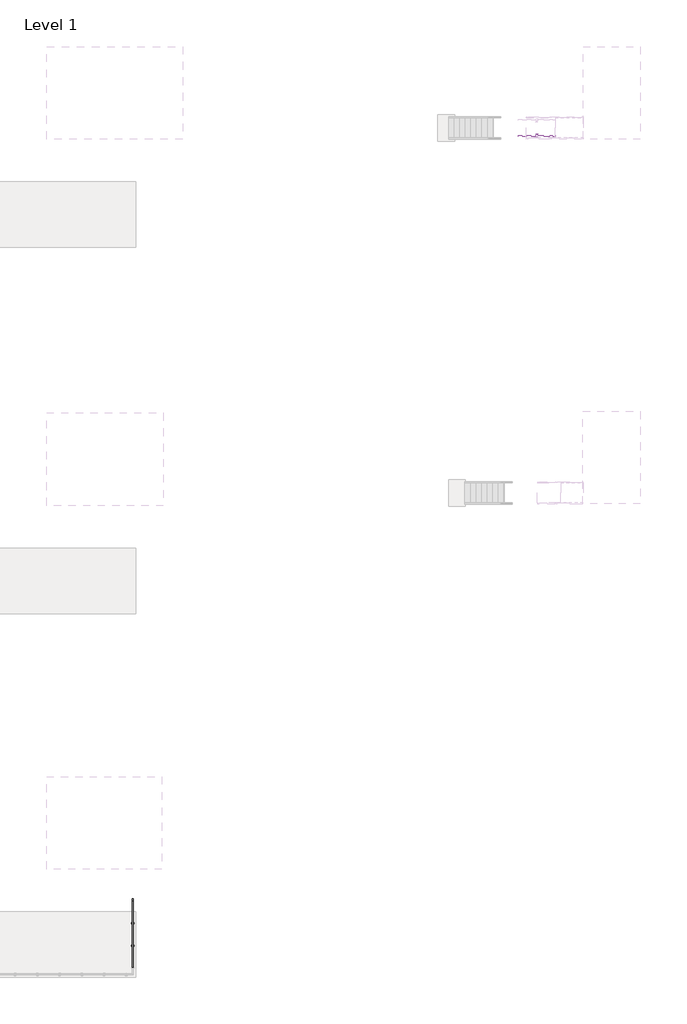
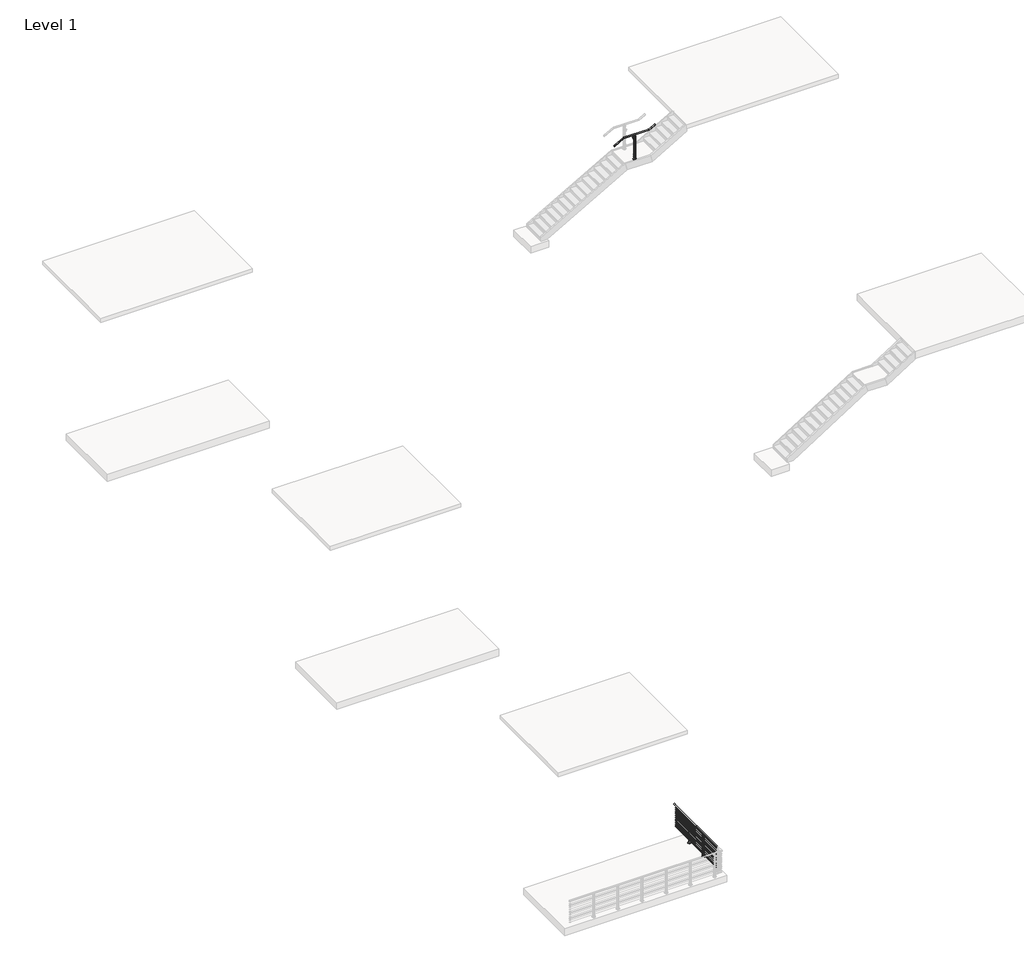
# One storey, part 22 of 36: 2 railings.
"""IFC4 building model written with IfcOpenShell, lengths in millimetres."""

from ifc_helpers import new_model, si_unit, point, frame, frame_2d, origin, origin_with_axes, place, context, project, spatial, polyline, circle_curve, ellipse_curve, trimmed, segment, composite_curve, outline, extrude, element, save
from ifc_brep_helpers import plane_surface, cylinder_surface, revolved_surface, advanced_brep

model = new_model("IFC4")

# Units and contexts
model_context = context("Model", 3, world=origin())
ifc_project = project(units=[si_unit("LENGTHUNIT", "METRE", prefix="MILLI")], contexts=[model_context])

# Site, building, storey
site = spatial("IfcSite", under=ifc_project)
building = spatial("IfcBuilding", under=site)
storey = spatial("IfcBuildingStorey", under=building, Name="Level 1", Elevation=0.0)

# Railings
placement = place(None, origin())
element("IfcRailing", 1, ObjectType="VIVA-BLADE-Cable-Core Mount-Straight", at=placement, inside=storey, context=model_context, shape_type="SolidModel", body=[
    advanced_brep(
    [(69909.4592968, -56752.6334719, 1054.1), (69858.6592968, -56752.6334719, 1054.1), (69909.4592968, -53704.6334719, 1054.1), (69858.6592968, -53704.6334719, 1054.1), (69909.4592968, -53603.0334719, 1054.1), (69858.6592968, -53603.0334719, 1054.1)],
    [
        (0, 1, circle_curve(frame((69884.0592968, -56752.6334719, 1054.1), z_axis=(0.0, -1.0, 0.0), x_axis=(-1.0, 0.0, 0.0)), 25.4)),
        (1, 0, circle_curve(frame((69884.0592968, -56752.6334719, 1054.1), z_axis=(0.0, -1.0, 0.0), x_axis=(-1.0, 0.0, 0.0)), 25.4)),
        (0, 2),
        (2, 3, circle_curve(frame((69884.0592968, -53704.6334719, 1054.1), z_axis=(0.0, -1.0, 0.0), x_axis=(-1.0, 0.0, 0.0)), 25.4)),
        (3, 1),
        (3, 2, circle_curve(frame((69884.0592968, -53704.6334719, 1054.1), z_axis=(0.0, -1.0, 0.0), x_axis=(-1.0, 0.0, 0.0)), 25.4)),
        (4, 5, circle_curve(frame((69884.0592968, -53603.0334719, 1054.1), z_axis=(0.0, 1.0, 0.0), x_axis=(-1.0, 0.0, 0.0)), 25.4)),
        (5, 4, circle_curve(frame((69884.0592968, -53603.0334719, 1054.1), z_axis=(0.0, 1.0, 0.0), x_axis=(-1.0, 0.0, 0.0)), 25.4)),
        (2, 4),
        (5, 3),
    ],
    [
        plane_surface(frame((69884.0592968, -56752.6334719, 1079.5), z_axis=(0.0, -1.0, 0.0), x_axis=(0.0, 0.0, 1.0))),
        cylinder_surface(frame((69884.0592968, -56752.6334719, 1054.1), z_axis=(0.0, -1.0, 0.0), x_axis=(-1.0, 0.0, 0.0)), 25.4),
        plane_surface(frame((69884.0592968, -53603.0334719, 1079.5), z_axis=(0.0, 1.0, 0.0), x_axis=(0.0, 0.0, 1.0))),
        cylinder_surface(frame((69884.0592968, -53704.6334719, 1054.1), z_axis=(0.0, -1.0, 0.0), x_axis=(-1.0, 0.0, 0.0)), 25.4),
    ],
    [
        (0, [[1, 2]]),
        (1, [[-1, 3, 4, 5]]),
        (1, [[-2, -5, 6, -3]]),
        (2, [[7, 8]]),
        (3, [[-4, 9, -8, 10]]),
        (3, [[-6, -10, -7, -9]]),
    ],
),
    extrude(outline(composite_curve([segment(trimmed(circle_curve(frame_2d((937.4124, 69884.0592968)), 2.3876), [point((937.4124, 69881.6716968))], [point((937.4124, 69886.4468968))], False, "CARTESIAN"), True, "CONTINUOUS"), segment(trimmed(circle_curve(frame_2d((937.4124, 69884.0592968)), 2.3876), [point((937.4124, 69886.4468968))], [point((937.4124, 69881.6716968))], False, "CARTESIAN"), True, "CONTINUOUS")], self_intersect=False)), frame((0.0, -56752.6334719, 0.0), z_axis=(0.0, 1.0, 0.0), x_axis=(0.0, 0.0, 1.0)), (0.0, 0.0, 1.0), 3048.0),
    extrude(outline(composite_curve([segment(trimmed(circle_curve(frame_2d((854.8624, 69884.0592968)), 2.3876), [point((854.8624, 69881.6716968))], [point((854.8624, 69886.4468968))], False, "CARTESIAN"), True, "CONTINUOUS"), segment(trimmed(circle_curve(frame_2d((854.8624, 69884.0592968)), 2.3876), [point((854.8624, 69886.4468968))], [point((854.8624, 69881.6716968))], False, "CARTESIAN"), True, "CONTINUOUS")], self_intersect=False)), frame((0.0, -56752.6334719, 0.0), z_axis=(0.0, 1.0, 0.0), x_axis=(0.0, 0.0, 1.0)), (0.0, 0.0, 1.0), 3048.0),
    extrude(outline(composite_curve([segment(trimmed(circle_curve(frame_2d((772.3124, 69884.0592968)), 2.3876), [point((772.3124, 69881.6716968))], [point((772.3124, 69886.4468968))], False, "CARTESIAN"), True, "CONTINUOUS"), segment(trimmed(circle_curve(frame_2d((772.3124, 69884.0592968)), 2.3876), [point((772.3124, 69886.4468968))], [point((772.3124, 69881.6716968))], False, "CARTESIAN"), True, "CONTINUOUS")], self_intersect=False)), frame((0.0, -56752.6334719, 0.0), z_axis=(0.0, 1.0, 0.0), x_axis=(0.0, 0.0, 1.0)), (0.0, 0.0, 1.0), 3048.0),
    extrude(outline(composite_curve([segment(trimmed(circle_curve(frame_2d((689.7624, 69884.0592968)), 2.3876), [point((689.7624, 69881.6716968))], [point((689.7624, 69886.4468968))], False, "CARTESIAN"), True, "CONTINUOUS"), segment(trimmed(circle_curve(frame_2d((689.7624, 69884.0592968)), 2.3876), [point((689.7624, 69886.4468968))], [point((689.7624, 69881.6716968))], False, "CARTESIAN"), True, "CONTINUOUS")], self_intersect=False)), frame((0.0, -56752.6334719, 0.0), z_axis=(0.0, 1.0, 0.0), x_axis=(0.0, 0.0, 1.0)), (0.0, 0.0, 1.0), 3048.0),
    extrude(outline(composite_curve([segment(trimmed(circle_curve(frame_2d((607.2124, 69884.0592968)), 2.3876), [point((607.2124, 69881.6716968))], [point((607.2124, 69886.4468968))], False, "CARTESIAN"), True, "CONTINUOUS"), segment(trimmed(circle_curve(frame_2d((607.2124, 69884.0592968)), 2.3876), [point((607.2124, 69886.4468968))], [point((607.2124, 69881.6716968))], False, "CARTESIAN"), True, "CONTINUOUS")], self_intersect=False)), frame((0.0, -56752.6334719, 0.0), z_axis=(0.0, 1.0, 0.0), x_axis=(0.0, 0.0, 1.0)), (0.0, 0.0, 1.0), 3048.0),
    extrude(outline(composite_curve([segment(trimmed(circle_curve(frame_2d((524.6624, 69884.0592968)), 2.3876), [point((524.6624, 69881.6716968))], [point((524.6624, 69886.4468968))], False, "CARTESIAN"), True, "CONTINUOUS"), segment(trimmed(circle_curve(frame_2d((524.6624, 69884.0592968)), 2.3876), [point((524.6624, 69886.4468968))], [point((524.6624, 69881.6716968))], False, "CARTESIAN"), True, "CONTINUOUS")], self_intersect=False)), frame((0.0, -56752.6334719, 0.0), z_axis=(0.0, 1.0, 0.0), x_axis=(0.0, 0.0, 1.0)), (0.0, 0.0, 1.0), 3048.0),
    extrude(outline(composite_curve([segment(trimmed(circle_curve(frame_2d((442.1124, 69884.0592968)), 2.3876), [point((442.1124, 69881.6716968))], [point((442.1124, 69886.4468968))], False, "CARTESIAN"), True, "CONTINUOUS"), segment(trimmed(circle_curve(frame_2d((442.1124, 69884.0592968)), 2.3876), [point((442.1124, 69886.4468968))], [point((442.1124, 69881.6716968))], False, "CARTESIAN"), True, "CONTINUOUS")], self_intersect=False)), frame((0.0, -56752.6334719, 0.0), z_axis=(0.0, 1.0, 0.0), x_axis=(0.0, 0.0, 1.0)), (0.0, 0.0, 1.0), 3048.0),
    extrude(outline(composite_curve([segment(trimmed(circle_curve(frame_2d((359.5624, 69884.0592968)), 2.3876), [point((359.5624, 69881.6716968))], [point((359.5624, 69886.4468968))], False, "CARTESIAN"), True, "CONTINUOUS"), segment(trimmed(circle_curve(frame_2d((359.5624, 69884.0592968)), 2.3876), [point((359.5624, 69886.4468968))], [point((359.5624, 69881.6716968))], False, "CARTESIAN"), True, "CONTINUOUS")], self_intersect=False)), frame((0.0, -56752.6334719, 0.0), z_axis=(0.0, 1.0, 0.0), x_axis=(0.0, 0.0, 1.0)), (0.0, 0.0, 1.0), 3048.0),
    extrude(outline(composite_curve([segment(trimmed(circle_curve(frame_2d((277.0124, 69884.0592968)), 2.3876), [point((277.0124, 69881.6716968))], [point((277.0124, 69886.4468968))], False, "CARTESIAN"), True, "CONTINUOUS"), segment(trimmed(circle_curve(frame_2d((277.0124, 69884.0592968)), 2.3876), [point((277.0124, 69886.4468968))], [point((277.0124, 69881.6716968))], False, "CARTESIAN"), True, "CONTINUOUS")], self_intersect=False)), frame((0.0, -56752.6334719, 0.0), z_axis=(0.0, 1.0, 0.0), x_axis=(0.0, 0.0, 1.0)), (0.0, 0.0, 1.0), 3048.0),
    extrude(outline(composite_curve([segment(trimmed(circle_curve(frame_2d((194.4624, 69884.0592968)), 2.3876), [point((194.4624, 69881.6716968))], [point((194.4624, 69886.4468968))], False, "CARTESIAN"), True, "CONTINUOUS"), segment(trimmed(circle_curve(frame_2d((194.4624, 69884.0592968)), 2.3876), [point((194.4624, 69886.4468968))], [point((194.4624, 69881.6716968))], False, "CARTESIAN"), True, "CONTINUOUS")], self_intersect=False)), frame((0.0, -56752.6334719, 0.0), z_axis=(0.0, 1.0, 0.0), x_axis=(0.0, 0.0, 1.0)), (0.0, 0.0, 1.0), 3048.0),
    extrude(outline(composite_curve([segment(trimmed(circle_curve(frame_2d((111.9124, 69884.0592968)), 2.3876), [point((111.9124, 69881.6716968))], [point((111.9124, 69886.4468968))], False, "CARTESIAN"), True, "CONTINUOUS"), segment(trimmed(circle_curve(frame_2d((111.9124, 69884.0592968)), 2.3876), [point((111.9124, 69886.4468968))], [point((111.9124, 69881.6716968))], False, "CARTESIAN"), True, "CONTINUOUS")], self_intersect=False)), frame((0.0, -56752.6334719, 0.0), z_axis=(0.0, 1.0, 0.0), x_axis=(0.0, 0.0, 1.0)), (0.0, 0.0, 1.0), 3048.0),
    extrude(outline(polyline([(69858.6595001, -54747.7083075), (69858.6595001, -54739.6834719), (69909.4618247, -54739.6834719), (69909.4618247, -54747.7083075), (69858.6595001, -54747.7083075)])), frame((0.0, 0.0, -146.05), z_axis=(0.0, 0.0, 1.0), x_axis=(1.0, 0.0, 0.0)), (0.0, 0.0, 1.0), 146.05),
    extrude(outline(polyline([(69858.6595001, -54701.5835099), (69858.6595001, -54693.5825099), (69909.4618247, -54693.5825099), (69909.4618247, -54701.5835099), (69858.6595001, -54701.5835099)])), frame((0.0, 0.0, -146.05), z_axis=(0.0, 0.0, 1.0), x_axis=(1.0, 0.0, 0.0)), (0.0, 0.0, 1.0), 146.05),
    extrude(outline(composite_curve([segment(trimmed(circle_curve(frame_2d((69884.0592968, -54720.6454087)), 63.4988059), [point((69947.5581027, -54720.6454087))], [point((69820.5604908, -54720.6454087))], False, "CARTESIAN"), True, "CONTINUOUS"), segment(trimmed(circle_curve(frame_2d((69884.0592968, -54720.6454087)), 63.4988059), [point((69820.5604908, -54720.6454087))], [point((69947.5581027, -54720.6454087))], False, "CARTESIAN"), True, "CONTINUOUS")], self_intersect=False)), origin_with_axes(), (0.0, 0.0, 1.0), 9.525),
    advanced_brep(
    [(69871.2991731, -54675.3960719, 1032.0967655), (69896.1712376, -54675.3960719, 1031.9535285), (69898.980168, -54675.3960719, 1027.1267745), (69867.4632757, -54675.3960719, 1027.707533), (69871.2991731, -54765.8708719, 1032.0967655), (69867.4632757, -54765.8708719, 1027.707533), (69899.0939614, -54765.8708719, 1027.1893964), (69896.2582098, -54765.8708719, 1032.0018447)],
    [
        (0, 1, circle_curve(frame((69883.862976, -54675.3960719, 1054.2115898), z_axis=(0.0, -1.0, 0.0), x_axis=(-1.0, 0.0, 0.0)), 25.4345159)),
        (1, 2, circle_curve(frame((69897.5028629, -54675.3960719, 1029.4993599), z_axis=(0.0, 1.0, 0.0), x_axis=(-1.0, 0.0, 0.0)), 2.7949225)),
        (2, 3, circle_curve(frame((69883.7295129, -54675.3960719, 1054.9742164), z_axis=(0.0, 1.0, 0.0), x_axis=(-1.0, 0.0, 0.0)), 31.75)),
        (3, 0, circle_curve(frame((69869.7516155, -54675.3960719, 1029.5784521), z_axis=(0.0, 1.0, 0.0), x_axis=(-1.0, 0.0, 0.0)), 2.9558141)),
        (4, 5, circle_curve(frame((69869.7516155, -54765.8708719, 1029.5784521), z_axis=(0.0, -1.0, 0.0), x_axis=(-1.0, 0.0, 0.0)), 2.9558141)),
        (5, 6, circle_curve(frame((69883.7295129, -54765.8708719, 1054.9742164), z_axis=(0.0, -1.0, 0.0), x_axis=(-1.0, 0.0, 0.0)), 31.75)),
        (6, 7, circle_curve(frame((69897.5028629, -54765.8708719, 1029.4993599), z_axis=(0.0, -1.0, 0.0), x_axis=(-1.0, 0.0, 0.0)), 2.7949225)),
        (7, 4, circle_curve(frame((69883.862976, -54765.8708719, 1054.2115898), z_axis=(0.0, 1.0, 0.0), x_axis=(-1.0, 0.0, 0.0)), 25.4345159)),
        (0, 4),
        (7, 1),
        (6, 2),
        (5, 3),
    ],
    [
        plane_surface(frame((69858.4284602, -54675.3960719, 1054.2115898), z_axis=(0.0, 1.0, 0.0), x_axis=(0.0, 0.0, -1.0))),
        plane_surface(frame((69858.4284602, -54765.8708719, 1054.2115898), z_axis=(0.0, -1.0, 0.0), x_axis=(0.0, 0.0, 1.0))),
        revolved_surface(polyline([(69858.42846010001, -54765.8708719, 1054.2115898), (69858.42846010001, -54675.3960719, 1054.2115898)]), (69883.862976, -54765.8708719, 1054.2115898), (0.0, -1.0, 0.0)),
        cylinder_surface(frame((69897.5028629, -54765.8708719, 1029.4993599), z_axis=(0.0, 1.0, 0.0), x_axis=(-1.0, 0.0, 0.0)), 2.7949225),
        cylinder_surface(frame((69883.7295129, -54765.8708719, 1054.9742164), z_axis=(0.0, 1.0, 0.0), x_axis=(-1.0, 0.0, 0.0)), 31.75),
        cylinder_surface(frame((69869.7516155, -54765.8708719, 1029.5784521), z_axis=(0.0, 1.0, 0.0), x_axis=(-1.0, 0.0, 0.0)), 2.9558141),
    ],
    [
        (0, [[1, 2, 3, 4]]),
        (1, [[5, 6, 7, 8]]),
        (2, [[-1, 9, -8, 10]]),
        (3, [[-2, -10, -7, 11]]),
        (4, [[-3, -11, -6, 12]]),
        (5, [[-4, -12, -5, -9]]),
    ],
),
    advanced_brep(
    [(69881.5192968, -54707.9334719, 1014.4125), (69881.5192968, -54733.3334719, 1014.4125), (69881.5192968, -54747.7013867, 1028.7804149), (69881.5192968, -54693.565557, 1028.7804149), (69886.5992968, -54707.9334719, 1014.4125), (69886.5992968, -54693.565557, 1028.7804149), (69886.5992968, -54747.7013867, 1028.7804149), (69886.5992968, -54733.3334719, 1014.4125)],
    [
        (0, 1),
        (1, 2, circle_curve(frame((69881.5192968, -54747.7013867, 1014.4125), z_axis=(1.0, 0.0, 0.0), x_axis=(0.0, -1.0, 0.0)), 14.3679149)),
        (2, 3),
        (3, 0, circle_curve(frame((69881.5192968, -54693.565557, 1014.4125), z_axis=(1.0, 0.0, 0.0), x_axis=(0.0, -1.0, 0.0)), 14.3679149)),
        (4, 5, circle_curve(frame((69886.5992968, -54693.565557, 1014.4125), z_axis=(-1.0, 0.0, 0.0), x_axis=(0.0, -1.0, 0.0)), 14.3679149)),
        (5, 6),
        (6, 7, circle_curve(frame((69886.5992968, -54747.7013867, 1014.4125), z_axis=(-1.0, 0.0, 0.0), x_axis=(0.0, -1.0, 0.0)), 14.3679149)),
        (7, 4),
        (0, 4),
        (7, 1),
        (6, 2),
        (5, 3),
    ],
    [
        plane_surface(frame((69881.5192968, -54733.3334719, 1014.4125), z_axis=(-1.0, 0.0, 0.0), x_axis=(0.0, -1.0, 0.0))),
        plane_surface(frame((69886.5992968, -54733.3334719, 1014.4125), z_axis=(1.0, 0.0, 0.0), x_axis=(0.0, 1.0, 0.0))),
        plane_surface(frame((69881.5192968, -54707.9334719, 1014.4125), z_axis=(0.0, 0.0, -1.0), x_axis=(1.0, 0.0, 0.0))),
        revolved_surface(polyline([(69886.5992968, -54762.0693016, 1014.4125), (69881.5192968, -54762.0693016, 1014.4125)]), (69886.5992968, -54747.7013867, 1014.4125), (1.0, 0.0, 0.0)),
        plane_surface(frame((69881.5192968, -54747.7013867, 1028.7804149), z_axis=(0.0, 0.0, 1.0), x_axis=(1.0, 0.0, 0.0))),
        revolved_surface(polyline([(69886.5992968, -54707.9334719, 1014.4125), (69881.5192968, -54707.9334719, 1014.4125)]), (69886.5992968, -54693.565557, 1014.4125), (1.0, 0.0, 0.0)),
    ],
    [
        (0, [[1, 2, 3, 4]]),
        (1, [[5, 6, 7, 8]]),
        (2, [[-1, 9, -8, 10]]),
        (3, [[-2, -10, -7, 11]]),
        (4, [[-3, -11, -6, 12]]),
        (5, [[-4, -12, -5, -9]]),
    ],
),
    extrude(outline(polyline([(69858.6595001, -54747.7083075), (69858.6595001, -54739.6834719), (69909.4618247, -54739.6834719), (69909.4618247, -54747.7083075), (69858.6595001, -54747.7083075)])), origin_with_axes(), (0.0, 0.0, 1.0), 996.95),
    extrude(outline(composite_curve([segment(trimmed(circle_curve(frame_2d((986.0416929, 69896.7617737)), 8.89), [point((986.0416929, 69905.6517737))], [point((986.0416929, 69887.8717737))], False, "CARTESIAN"), True, "CONTINUOUS"), segment(trimmed(circle_curve(frame_2d((986.0416929, 69896.7617737)), 8.89), [point((986.0416929, 69887.8717737))], [point((986.0416929, 69905.6517737))], False, "CARTESIAN"), True, "CONTINUOUS")], self_intersect=False)), frame((0.0, -54752.3834719, 0.0), z_axis=(0.0, 1.0, 0.0), x_axis=(0.0, 0.0, 1.0)), (0.0, 0.0, 1.0), 63.4880631),
    extrude(outline(composite_curve([segment(trimmed(circle_curve(frame_2d((986.0416929, 69871.3618757)), 8.89), [point((986.0416929, 69880.2518757))], [point((986.0416929, 69862.4718757))], False, "CARTESIAN"), True, "CONTINUOUS"), segment(trimmed(circle_curve(frame_2d((986.0416929, 69871.3618757)), 8.89), [point((986.0416929, 69862.4718757))], [point((986.0416929, 69880.2518757))], False, "CARTESIAN"), True, "CONTINUOUS")], self_intersect=False)), frame((0.0, -54752.3834719, 0.0), z_axis=(0.0, 1.0, 0.0), x_axis=(0.0, 0.0, 1.0)), (0.0, 0.0, 1.0), 63.4880631),
    extrude(outline(polyline([(-54739.6834719, 974.7123), (-54739.6834719, 1008.0625), (-54733.3334719, 1014.4125), (-54707.9334719, 1014.4125), (-54701.5834719, 1008.0625), (-54701.5834719, 974.7123), (-54739.6834719, 974.7123)])), frame((69858.6592968, 0.0, 0.0), z_axis=(1.0, 0.0, 0.0), x_axis=(0.0, 1.0, 0.0)), (0.0, 0.0, 1.0), 50.8025279),
    extrude(outline(polyline([(69858.6595001, -54701.5835099), (69858.6595001, -54693.5825099), (69909.4618247, -54693.5825099), (69909.4618247, -54701.5835099), (69858.6595001, -54701.5835099)])), origin_with_axes(), (0.0, 0.0, 1.0), 996.95),
    extrude(outline(polyline([(69858.6595001, -55763.7083075), (69858.6595001, -55755.6834719), (69909.4618247, -55755.6834719), (69909.4618247, -55763.7083075), (69858.6595001, -55763.7083075)])), frame((0.0, 0.0, -146.05), z_axis=(0.0, 0.0, 1.0), x_axis=(1.0, 0.0, 0.0)), (0.0, 0.0, 1.0), 146.05),
    extrude(outline(polyline([(69858.6595001, -55717.5835099), (69858.6595001, -55709.5825099), (69909.4618247, -55709.5825099), (69909.4618247, -55717.5835099), (69858.6595001, -55717.5835099)])), frame((0.0, 0.0, -146.05), z_axis=(0.0, 0.0, 1.0), x_axis=(1.0, 0.0, 0.0)), (0.0, 0.0, 1.0), 146.05),
    extrude(outline(composite_curve([segment(trimmed(circle_curve(frame_2d((69884.0592968, -55736.6454087)), 63.4988059), [point((69947.5581027, -55736.6454087))], [point((69820.5604908, -55736.6454087))], False, "CARTESIAN"), True, "CONTINUOUS"), segment(trimmed(circle_curve(frame_2d((69884.0592968, -55736.6454087)), 63.4988059), [point((69820.5604908, -55736.6454087))], [point((69947.5581027, -55736.6454087))], False, "CARTESIAN"), True, "CONTINUOUS")], self_intersect=False)), origin_with_axes(), (0.0, 0.0, 1.0), 9.525),
    advanced_brep(
    [(69871.2991731, -55691.3960719, 1032.0967655), (69896.1712376, -55691.3960719, 1031.9535285), (69898.980168, -55691.3960719, 1027.1267745), (69867.4632757, -55691.3960719, 1027.707533), (69871.2991731, -55781.8708719, 1032.0967655), (69867.4632757, -55781.8708719, 1027.707533), (69899.0939614, -55781.8708719, 1027.1893964), (69896.2582098, -55781.8708719, 1032.0018447)],
    [
        (0, 1, circle_curve(frame((69883.862976, -55691.3960719, 1054.2115898), z_axis=(0.0, -1.0, 0.0), x_axis=(-1.0, 0.0, 0.0)), 25.4345159)),
        (1, 2, circle_curve(frame((69897.5028629, -55691.3960719, 1029.4993599), z_axis=(0.0, 1.0, 0.0), x_axis=(-1.0, 0.0, 0.0)), 2.7949225)),
        (2, 3, circle_curve(frame((69883.7295129, -55691.3960719, 1054.9742164), z_axis=(0.0, 1.0, 0.0), x_axis=(-1.0, 0.0, 0.0)), 31.75)),
        (3, 0, circle_curve(frame((69869.7516155, -55691.3960719, 1029.5784521), z_axis=(0.0, 1.0, 0.0), x_axis=(-1.0, 0.0, 0.0)), 2.9558141)),
        (4, 5, circle_curve(frame((69869.7516155, -55781.8708719, 1029.5784521), z_axis=(0.0, -1.0, 0.0), x_axis=(-1.0, 0.0, 0.0)), 2.9558141)),
        (5, 6, circle_curve(frame((69883.7295129, -55781.8708719, 1054.9742164), z_axis=(0.0, -1.0, 0.0), x_axis=(-1.0, 0.0, 0.0)), 31.75)),
        (6, 7, circle_curve(frame((69897.5028629, -55781.8708719, 1029.4993599), z_axis=(0.0, -1.0, 0.0), x_axis=(-1.0, 0.0, 0.0)), 2.7949225)),
        (7, 4, circle_curve(frame((69883.862976, -55781.8708719, 1054.2115898), z_axis=(0.0, 1.0, 0.0), x_axis=(-1.0, 0.0, 0.0)), 25.4345159)),
        (0, 4),
        (7, 1),
        (6, 2),
        (5, 3),
    ],
    [
        plane_surface(frame((69858.4284602, -55691.3960719, 1054.2115898), z_axis=(0.0, 1.0, 0.0), x_axis=(0.0, 0.0, -1.0))),
        plane_surface(frame((69858.4284602, -55781.8708719, 1054.2115898), z_axis=(0.0, -1.0, 0.0), x_axis=(0.0, 0.0, 1.0))),
        revolved_surface(polyline([(69858.42846010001, -55781.8708719, 1054.2115898), (69858.42846010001, -55691.3960719, 1054.2115898)]), (69883.862976, -55781.8708719, 1054.2115898), (0.0, -1.0, 0.0)),
        cylinder_surface(frame((69897.5028629, -55781.8708719, 1029.4993599), z_axis=(0.0, 1.0, 0.0), x_axis=(-1.0, 0.0, 0.0)), 2.7949225),
        cylinder_surface(frame((69883.7295129, -55781.8708719, 1054.9742164), z_axis=(0.0, 1.0, 0.0), x_axis=(-1.0, 0.0, 0.0)), 31.75),
        cylinder_surface(frame((69869.7516155, -55781.8708719, 1029.5784521), z_axis=(0.0, 1.0, 0.0), x_axis=(-1.0, 0.0, 0.0)), 2.9558141),
    ],
    [
        (0, [[1, 2, 3, 4]]),
        (1, [[5, 6, 7, 8]]),
        (2, [[-1, 9, -8, 10]]),
        (3, [[-2, -10, -7, 11]]),
        (4, [[-3, -11, -6, 12]]),
        (5, [[-4, -12, -5, -9]]),
    ],
),
    advanced_brep(
    [(69881.5192968, -55723.9334719, 1014.4125), (69881.5192968, -55749.3334719, 1014.4125), (69881.5192968, -55763.7013867, 1028.7804149), (69881.5192968, -55709.565557, 1028.7804149), (69886.5992968, -55723.9334719, 1014.4125), (69886.5992968, -55709.565557, 1028.7804149), (69886.5992968, -55763.7013867, 1028.7804149), (69886.5992968, -55749.3334719, 1014.4125)],
    [
        (0, 1),
        (1, 2, circle_curve(frame((69881.5192968, -55763.7013867, 1014.4125), z_axis=(1.0, 0.0, 0.0), x_axis=(0.0, -1.0, 0.0)), 14.3679149)),
        (2, 3),
        (3, 0, circle_curve(frame((69881.5192968, -55709.565557, 1014.4125), z_axis=(1.0, 0.0, 0.0), x_axis=(0.0, -1.0, 0.0)), 14.3679149)),
        (4, 5, circle_curve(frame((69886.5992968, -55709.565557, 1014.4125), z_axis=(-1.0, 0.0, 0.0), x_axis=(0.0, -1.0, 0.0)), 14.3679149)),
        (5, 6),
        (6, 7, circle_curve(frame((69886.5992968, -55763.7013867, 1014.4125), z_axis=(-1.0, 0.0, 0.0), x_axis=(0.0, -1.0, 0.0)), 14.3679149)),
        (7, 4),
        (0, 4),
        (7, 1),
        (6, 2),
        (5, 3),
    ],
    [
        plane_surface(frame((69881.5192968, -55749.3334719, 1014.4125), z_axis=(-1.0, 0.0, 0.0), x_axis=(0.0, -1.0, 0.0))),
        plane_surface(frame((69886.5992968, -55749.3334719, 1014.4125), z_axis=(1.0, 0.0, 0.0), x_axis=(0.0, 1.0, 0.0))),
        plane_surface(frame((69881.5192968, -55723.9334719, 1014.4125), z_axis=(0.0, 0.0, -1.0), x_axis=(1.0, 0.0, 0.0))),
        revolved_surface(polyline([(69886.5992968, -55778.0693016, 1014.4125), (69881.5192968, -55778.0693016, 1014.4125)]), (69886.5992968, -55763.7013867, 1014.4125), (1.0, 0.0, 0.0)),
        plane_surface(frame((69881.5192968, -55763.7013867, 1028.7804149), z_axis=(0.0, 0.0, 1.0), x_axis=(1.0, 0.0, 0.0))),
        revolved_surface(polyline([(69886.5992968, -55723.9334719, 1014.4125), (69881.5192968, -55723.9334719, 1014.4125)]), (69886.5992968, -55709.565557, 1014.4125), (1.0, 0.0, 0.0)),
    ],
    [
        (0, [[1, 2, 3, 4]]),
        (1, [[5, 6, 7, 8]]),
        (2, [[-1, 9, -8, 10]]),
        (3, [[-2, -10, -7, 11]]),
        (4, [[-3, -11, -6, 12]]),
        (5, [[-4, -12, -5, -9]]),
    ],
),
    extrude(outline(polyline([(69858.6595001, -55763.7083075), (69858.6595001, -55755.6834719), (69909.4618247, -55755.6834719), (69909.4618247, -55763.7083075), (69858.6595001, -55763.7083075)])), origin_with_axes(), (0.0, 0.0, 1.0), 996.95),
    extrude(outline(composite_curve([segment(trimmed(circle_curve(frame_2d((986.0416929, 69896.7617737)), 8.89), [point((986.0416929, 69905.6517737))], [point((986.0416929, 69887.8717737))], False, "CARTESIAN"), True, "CONTINUOUS"), segment(trimmed(circle_curve(frame_2d((986.0416929, 69896.7617737)), 8.89), [point((986.0416929, 69887.8717737))], [point((986.0416929, 69905.6517737))], False, "CARTESIAN"), True, "CONTINUOUS")], self_intersect=False)), frame((0.0, -55768.3834719, 0.0), z_axis=(0.0, 1.0, 0.0), x_axis=(0.0, 0.0, 1.0)), (0.0, 0.0, 1.0), 63.4880631),
    extrude(outline(composite_curve([segment(trimmed(circle_curve(frame_2d((986.0416929, 69871.3618757)), 8.89), [point((986.0416929, 69880.2518757))], [point((986.0416929, 69862.4718757))], False, "CARTESIAN"), True, "CONTINUOUS"), segment(trimmed(circle_curve(frame_2d((986.0416929, 69871.3618757)), 8.89), [point((986.0416929, 69862.4718757))], [point((986.0416929, 69880.2518757))], False, "CARTESIAN"), True, "CONTINUOUS")], self_intersect=False)), frame((0.0, -55768.3834719, 0.0), z_axis=(0.0, 1.0, 0.0), x_axis=(0.0, 0.0, 1.0)), (0.0, 0.0, 1.0), 63.4880631),
    extrude(outline(polyline([(-55755.6834719, 974.7123), (-55755.6834719, 1008.0625), (-55749.3334719, 1014.4125), (-55723.9334719, 1014.4125), (-55717.5834719, 1008.0625), (-55717.5834719, 974.7123), (-55755.6834719, 974.7123)])), frame((69858.6592968, 0.0, 0.0), z_axis=(1.0, 0.0, 0.0), x_axis=(0.0, 1.0, 0.0)), (0.0, 0.0, 1.0), 50.8025279),
    extrude(outline(polyline([(69858.6595001, -55717.5835099), (69858.6595001, -55709.5825099), (69909.4618247, -55709.5825099), (69909.4618247, -55717.5835099), (69858.6595001, -55717.5835099)])), origin_with_axes(), (0.0, 0.0, 1.0), 996.95),
])
element("IfcRailing", 2, ObjectType="VIVA-BLADE-Wire Mesh-Core Mount-Stair-Landing", at=placement, inside=storey, context=model_context, shape_type="SolidModel", body=[
    advanced_brep(
    [(87472.8048368, -18805.1990002, 3047.7740933), (87472.8048368, -18754.3990002, 3047.7740933), (87860.5501735, -18805.1990002, 3269.3428571), (87860.5501735, -18754.3990002, 3269.3428571), (88927.3501735, -18805.1990002, 3269.3428571), (88927.3501735, -18754.3990002, 3269.3428571), (89177.7798368, -18805.1990002, 3412.4455219), (89177.7798368, -18754.3990002, 3412.4455219)],
    [
        (0, 1, ellipse_curve(frame((87472.8048368, -18779.7990002, 3047.7740933), z_axis=(-1.0, 0.0, 0.0), x_axis=(0.0, 0.0, -0.9999999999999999)), 29.2544781, 25.4)),
        (1, 0, ellipse_curve(frame((87472.8048368, -18779.7990002, 3047.7740933), z_axis=(-1.0, 0.0, 0.0), x_axis=(0.0, 0.0, -0.9999999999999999)), 29.2544781, 25.4)),
        (0, 2),
        (2, 3, ellipse_curve(frame((87860.5501735, -18779.7990002, 3269.3428571), z_axis=(-0.9664996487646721, 0.0, -0.2566679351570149), x_axis=(0.25666793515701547, 0.0, -0.9664996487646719)), 26.2804027, 25.4)),
        (3, 1),
        (3, 2, ellipse_curve(frame((87860.5501735, -18779.7990002, 3269.3428571), z_axis=(-0.9664996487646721, 0.0, -0.2566679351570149), x_axis=(0.25666793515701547, 0.0, -0.9664996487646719)), 26.2804027, 25.4)),
        (2, 4),
        (4, 5, ellipse_curve(frame((88927.3501735, -18779.7990002, 3269.3428571), z_axis=(-0.9664996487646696, 0.0, -0.25666793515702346), x_axis=(-0.2566679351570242, 0.0, 0.9664996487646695)), 26.2804027, 25.4)),
        (5, 3),
        (5, 4, ellipse_curve(frame((88927.3501735, -18779.7990002, 3269.3428571), z_axis=(-0.9664996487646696, 0.0, -0.25666793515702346), x_axis=(-0.2566679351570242, 0.0, 0.9664996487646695)), 26.2804027, 25.4)),
        (6, 7, ellipse_curve(frame((89177.7798368, -18779.7990002, 3412.4455219), z_axis=(1.0, 0.0, 0.0), x_axis=(0.0, 0.0, -1.0)), 29.2544781, 25.4)),
        (7, 6, ellipse_curve(frame((89177.7798368, -18779.7990002, 3412.4455219), z_axis=(1.0, 0.0, 0.0), x_axis=(0.0, 0.0, -1.0)), 29.2544781, 25.4)),
        (4, 6),
        (7, 5),
    ],
    [
        plane_surface(frame((87472.8048368, -18779.7990002, 3077.0285714), z_axis=(-1.0, 0.0, 0.0), x_axis=(0.0, 1.0, 0.0))),
        cylinder_surface(frame((87485.4067658, -18779.7990002, 3054.9751956), z_axis=(-0.8682431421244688, 0.0, -0.496138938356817), x_axis=(0.0, 1.0, 0.0)), 25.4),
        cylinder_surface(frame((87853.8048368, -18779.7990002, 3269.3428571), z_axis=(-1.0, 0.0, 0.0), x_axis=(0.0, 1.0, 0.0)), 25.4),
        plane_surface(frame((89177.7798368, -18779.7990002, 3441.7), z_axis=(1.0, 0.0, 0.0), x_axis=(0.0, 1.0, 0.0))),
        cylinder_surface(frame((88933.2067658, -18779.7990002, 3272.6894813), z_axis=(-0.8682431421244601, 0.0, -0.49613893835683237), x_axis=(0.0, 1.0, 0.0)), 25.4),
    ],
    [
        (0, [[1, 2]]),
        (1, [[-1, 3, 4, 5]]),
        (1, [[-2, -5, 6, -3]]),
        (2, [[-4, 7, 8, 9]]),
        (2, [[-6, -9, 10, -7]]),
        (3, [[11, 12]]),
        (4, [[-8, 13, -12, 14]]),
        (4, [[-10, -14, -11, -13]]),
    ],
),
    extrude(outline(composite_curve([segment(trimmed(circle_curve(frame_2d((0.0, 7.0)), 7.0), [point((0.0, 14.0))], [point((0.0, 0.0))], False, "CARTESIAN"), True, "CONTINUOUS"), segment(trimmed(circle_curve(frame_2d((0.0, 7.0)), 7.0), [point((0.0, 0.0))], [point((0.0, 14.0))], False, "CARTESIAN"), True, "CONTINUOUS")], self_intersect=False)), frame((88325.2080869, -18694.1153777, 3013.7229503), z_axis=(0.0012555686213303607, 0.0, 0.999999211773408), x_axis=(0.999999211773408, 0.0, -0.0012555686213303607)), (0.0, 0.0, 1.0), 75.97),
    extrude(outline(composite_curve([segment(trimmed(circle_curve(frame_2d((-18685.8674457, 3111.669086)), 19.05), [point((-18699.3970339, 3098.2581672))], [point((-18672.3378575, 3098.2581672))], True, "CARTESIAN"), True, "CONTINUOUS"), segment(polyline([(-18672.3378575, 3098.2581672), (-18671.3114678, 3097.2407802)]), True, "CONTINUOUS"), segment(trimmed(circle_curve(frame_2d((-18672.3674457, 3096.1754583)), 1.5), [point((-18671.3114678, 3097.2407802))], [point((-18671.3820442, 3095.0445366))], False, "CARTESIAN"), True, "CONTINUOUS"), segment(trimmed(circle_curve(frame_2d((-18685.8674457, 3111.669086)), 22.05), [point((-18671.3820442, 3095.0445366))], [point((-18700.3528472, 3095.0445366))], False, "CARTESIAN"), True, "CONTINUOUS"), segment(trimmed(circle_curve(frame_2d((-18699.3674457, 3096.1754583)), 1.5), [point((-18700.3528472, 3095.0445366))], [point((-18700.4234236, 3097.2407802))], False, "CARTESIAN"), True, "CONTINUOUS"), segment(polyline([(-18700.4234236, 3097.2407802), (-18699.3970339, 3098.2581672)]), True, "CONTINUOUS")], self_intersect=False)), frame((88288.8567022, 0.0, 0.0), z_axis=(1.0, 0.0, 0.0), x_axis=(0.0, 1.0, 0.0)), (0.0, 0.0, 1.0), 74.5229187),
    extrude(outline(composite_curve([segment(trimmed(circle_curve(frame_2d((3040.5995463, 88325.2679904)), 12.5), [point((3040.5995463, 88312.7679904))], [point((3040.5995463, 88337.7679904))], False, "CARTESIAN"), True, "CONTINUOUS"), segment(trimmed(circle_curve(frame_2d((3040.5995463, 88325.2679904)), 12.5), [point((3040.5995463, 88337.7679904))], [point((3040.5995463, 88312.7679904))], False, "CARTESIAN"), True, "CONTINUOUS")], self_intersect=False)), frame((0.0, -18754.3992035, 0.0), z_axis=(0.0, 1.0, 0.0), x_axis=(0.0, 0.0, 1.0)), (0.0, 0.0, 1.0), 82.061346),
    extrude(outline(polyline([(88352.3671725, -18748.0492035), (88352.3671725, -18754.3992035), (88298.2397725, -18754.3992035), (88298.2397725, -18748.0492035), (88352.3671725, -18748.0492035)])), frame((0.0, 0.0, 3013.6558249), z_axis=(0.0, 0.0, 1.0), x_axis=(1.0, 0.0, 0.0)), (0.0, 0.0, 1.0), 54.1734375),
    extrude(outline(composite_curve([segment(trimmed(circle_curve(frame_2d((88325.2803999, -18783.2349401)), 63.5), [point((88325.2803999, -18846.7349401))], [point((88325.2803999, -18719.7349401))], False, "CARTESIAN"), True, "CONTINUOUS"), segment(trimmed(circle_curve(frame_2d((88325.2803999, -18783.2349401)), 63.5), [point((88325.2803999, -18719.7349401))], [point((88325.2803999, -18846.7349401))], False, "CARTESIAN"), True, "CONTINUOUS")], self_intersect=False)), frame((0.0, 0.0, 2177.1428571), z_axis=(0.0, 0.0, 1.0), x_axis=(1.0, 0.0, 0.0)), (0.0, 0.0, 1.0), 9.525),
    advanced_brep(
    [(88370.5297368, -18767.0388765, 3247.3396226), (88370.5297368, -18791.9109411, 3247.1963856), (88370.5297368, -18794.7198714, 3242.3696317), (88370.5297368, -18763.2029791, 3242.9503901), (88280.0549368, -18767.0388765, 3247.3396226), (88280.0549368, -18763.2029791, 3242.9503901), (88280.0549368, -18794.8336648, 3242.4322535), (88280.0549368, -18791.9979132, 3247.2447018)],
    [
        (0, 1, circle_curve(frame((88370.5297368, -18779.6026794, 3269.4544469), z_axis=(-1.0, 0.0, 0.0), x_axis=(0.0, 1.0, 0.0)), 25.4345159)),
        (1, 2, circle_curve(frame((88370.5297368, -18793.2425663, 3244.742217), z_axis=(1.0, 0.0, 0.0), x_axis=(0.0, 1.0, 0.0)), 2.7949225)),
        (2, 3, circle_curve(frame((88370.5297368, -18779.4692164, 3270.2170736), z_axis=(1.0, 0.0, 0.0), x_axis=(0.0, 1.0, 0.0)), 31.75)),
        (3, 0, circle_curve(frame((88370.5297368, -18765.4913189, 3244.8213092), z_axis=(1.0, 0.0, 0.0), x_axis=(0.0, 1.0, 0.0)), 2.9558141)),
        (4, 5, circle_curve(frame((88280.0549368, -18765.4913189, 3244.8213092), z_axis=(-1.0, 0.0, 0.0), x_axis=(0.0, 1.0, 0.0)), 2.9558141)),
        (5, 6, circle_curve(frame((88280.0549368, -18779.4692164, 3270.2170736), z_axis=(-1.0, 0.0, 0.0), x_axis=(0.0, 1.0, 0.0)), 31.75)),
        (6, 7, circle_curve(frame((88280.0549368, -18793.2425663, 3244.742217), z_axis=(-1.0, 0.0, 0.0), x_axis=(0.0, 1.0, 0.0)), 2.7949225)),
        (7, 4, circle_curve(frame((88280.0549368, -18779.6026794, 3269.4544469), z_axis=(1.0, 0.0, 0.0), x_axis=(0.0, 1.0, 0.0)), 25.4345159)),
        (0, 4),
        (7, 1),
        (6, 2),
        (5, 3),
    ],
    [
        plane_surface(frame((88370.5297368, -18754.1681636, 3269.4544469), z_axis=(1.0, 0.0, 0.0), x_axis=(0.0, 0.0, -1.0))),
        plane_surface(frame((88280.0549368, -18754.1681636, 3269.4544469), z_axis=(-1.0, 0.0, 0.0), x_axis=(0.0, 0.0, 1.0))),
        revolved_surface(polyline([(88280.0549368, -18754.1681635, 3269.4544469), (88370.5297368, -18754.1681635, 3269.4544469)]), (88280.0549368, -18779.6026794, 3269.4544469), (-1.0, 0.0, 0.0)),
        cylinder_surface(frame((88280.0549368, -18793.2425663, 3244.742217), z_axis=(1.0, 0.0, 0.0), x_axis=(0.0, 1.0, 0.0)), 2.7949225),
        cylinder_surface(frame((88280.0549368, -18779.4692164, 3270.2170736), z_axis=(1.0, 0.0, 0.0), x_axis=(0.0, 1.0, 0.0)), 31.75),
        cylinder_surface(frame((88280.0549368, -18765.4913189, 3244.8213092), z_axis=(1.0, 0.0, 0.0), x_axis=(0.0, 1.0, 0.0)), 2.9558141),
    ],
    [
        (0, [[1, 2, 3, 4]]),
        (1, [[5, 6, 7, 8]]),
        (2, [[-1, 9, -8, 10]]),
        (3, [[-2, -10, -7, 11]]),
        (4, [[-3, -11, -6, 12]]),
        (5, [[-4, -12, -5, -9]]),
    ],
),
    advanced_brep(
    [(88337.9923368, -18777.2590002, 3229.6553571), (88312.5923368, -18777.2590002, 3229.6553571), (88298.2244219, -18777.2590002, 3244.023272), (88352.3602517, -18777.2590002, 3244.023272), (88337.9923368, -18782.3390002, 3229.6553571), (88352.3602517, -18782.3390002, 3244.023272), (88298.2244219, -18782.3390002, 3244.023272), (88312.5923368, -18782.3390002, 3229.6553571)],
    [
        (0, 1),
        (1, 2, circle_curve(frame((88298.2244219, -18777.2590002, 3229.6553571), z_axis=(0.0, -1.0, 0.0), x_axis=(-1.0, 0.0, 0.0)), 14.3679149)),
        (2, 3),
        (3, 0, circle_curve(frame((88352.3602517, -18777.2590002, 3229.6553571), z_axis=(0.0, -1.0, 0.0), x_axis=(-1.0, 0.0, 0.0)), 14.3679149)),
        (4, 5, circle_curve(frame((88352.3602517, -18782.3390002, 3229.6553571), z_axis=(0.0, 1.0, 0.0), x_axis=(-1.0, 0.0, 0.0)), 14.3679149)),
        (5, 6),
        (6, 7, circle_curve(frame((88298.2244219, -18782.3390002, 3229.6553571), z_axis=(0.0, 1.0, 0.0), x_axis=(-1.0, 0.0, 0.0)), 14.3679149)),
        (7, 4),
        (0, 4),
        (7, 1),
        (6, 2),
        (5, 3),
    ],
    [
        plane_surface(frame((88312.5923368, -18777.2590002, 3229.6553571), z_axis=(0.0, 1.0, 0.0), x_axis=(-1.0, 0.0, 0.0))),
        plane_surface(frame((88312.5923368, -18782.3390002, 3229.6553571), z_axis=(0.0, -1.0, 0.0), x_axis=(1.0, 0.0, 0.0))),
        plane_surface(frame((88337.9923368, -18777.2590002, 3229.6553571), z_axis=(0.0, 0.0, -1.0), x_axis=(0.0, -1.0, 0.0))),
        revolved_surface(polyline([(88283.856507, -18782.3390002, 3229.6553571), (88283.856507, -18777.2590002, 3229.6553571)]), (88298.2244219, -18782.3390002, 3229.6553571), (0.0, -1.0, 0.0)),
        plane_surface(frame((88298.2244219, -18777.2590002, 3244.023272), z_axis=(0.0, 0.0, 1.0), x_axis=(0.0, -1.0, 0.0))),
        revolved_surface(polyline([(88337.9923368, -18782.3390002, 3229.6553571), (88337.9923368, -18777.2590002, 3229.6553571)]), (88352.3602517, -18782.3390002, 3229.6553571), (0.0, -1.0, 0.0)),
    ],
    [
        (0, [[1, 2, 3, 4]]),
        (1, [[5, 6, 7, 8]]),
        (2, [[-1, 9, -8, 10]]),
        (3, [[-2, -10, -7, 11]]),
        (4, [[-3, -11, -6, 12]]),
        (5, [[-4, -12, -5, -9]]),
    ],
),
    extrude(outline(polyline([(88298.2175011, -18754.3992035), (88306.2423368, -18754.3992035), (88306.2423368, -18805.2015281), (88298.2175011, -18805.2015281), (88298.2175011, -18754.3992035)])), frame((0.0, 0.0, 2237.6440557), z_axis=(0.0, 0.0, 1.0), x_axis=(1.0, 0.0, 0.0)), (0.0, 0.0, 1.0), 974.5488015),
    extrude(outline(polyline([(88333.221338, -18754.3996024), (88333.221338, -18805.1995946), (88317.2853476, -18805.1995946), (88317.2853476, -18754.3996024), (88333.221338, -18754.3996024)])), frame((0.0, 0.0, 2075.5428571), z_axis=(0.0, 0.0, 1.0), x_axis=(1.0, 0.0, 0.0)), (0.0, 0.0, 1.0), 342.9),
    extrude(outline(composite_curve([segment(trimmed(circle_curve(frame_2d((-18792.5014771, 3201.2845501)), 8.89), [point((-18801.3914771, 3201.2845501))], [point((-18783.6114771, 3201.2845501))], False, "CARTESIAN"), True, "CONTINUOUS"), segment(trimmed(circle_curve(frame_2d((-18792.5014771, 3201.2845501)), 8.89), [point((-18783.6114771, 3201.2845501))], [point((-18801.3914771, 3201.2845501))], False, "CARTESIAN"), True, "CONTINUOUS")], self_intersect=False)), frame((88293.5423368, 0.0, 0.0), z_axis=(1.0, 0.0, 0.0), x_axis=(0.0, 1.0, 0.0)), (0.0, 0.0, 1.0), 63.4880631),
    extrude(outline(composite_curve([segment(trimmed(circle_curve(frame_2d((-18767.1015791, 3201.2845501)), 8.89), [point((-18775.9915791, 3201.2845501))], [point((-18758.2115791, 3201.2845501))], False, "CARTESIAN"), True, "CONTINUOUS"), segment(trimmed(circle_curve(frame_2d((-18767.1015791, 3201.2845501)), 8.89), [point((-18758.2115791, 3201.2845501))], [point((-18775.9915791, 3201.2845501))], False, "CARTESIAN"), True, "CONTINUOUS")], self_intersect=False)), frame((88293.5423368, 0.0, 0.0), z_axis=(1.0, 0.0, 0.0), x_axis=(0.0, 1.0, 0.0)), (0.0, 0.0, 1.0), 63.4880631),
    extrude(outline(polyline([(3189.9551571, 88306.2423368), (3189.9551571, 88344.3423368), (3223.3053571, 88344.3423368), (3229.6553571, 88337.9923368), (3229.6553571, 88312.5923368), (3223.3053571, 88306.2423368), (3189.9551571, 88306.2423368)])), frame((0.0, -18805.2015281, 0.0), z_axis=(0.0, 1.0, 0.0), x_axis=(0.0, 0.0, 1.0)), (0.0, 0.0, 1.0), 50.8025279),
    extrude(outline(composite_curve([segment(trimmed(circle_curve(frame_2d((-18779.7987945, 2385.1476493)), 19.05), [point((-18798.8487945, 2385.1476493))], [point((-18760.7487945, 2385.1476493))], False, "CARTESIAN"), True, "CONTINUOUS"), segment(trimmed(circle_curve(frame_2d((-18779.7987945, 2385.1476493)), 19.05), [point((-18760.7487945, 2385.1476493))], [point((-18798.8487945, 2385.1476493))], False, "CARTESIAN"), True, "CONTINUOUS")], self_intersect=False)), frame((88288.8433368, 0.0, 0.0), z_axis=(1.0, 0.0, 0.0), x_axis=(0.0, 1.0, 0.0)), (0.0, 0.0, 1.0), 72.8981531),
    extrude(outline(composite_curve([segment(trimmed(circle_curve(frame_2d((-18779.7987945, 2296.2476493)), 19.05), [point((-18798.8487945, 2296.2476493))], [point((-18760.7487945, 2296.2476493))], False, "CARTESIAN"), True, "CONTINUOUS"), segment(trimmed(circle_curve(frame_2d((-18779.7987945, 2296.2476493)), 19.05), [point((-18760.7487945, 2296.2476493))], [point((-18798.8487945, 2296.2476493))], False, "CARTESIAN"), True, "CONTINUOUS")], self_intersect=False)), frame((88288.8433368, 0.0, 0.0), z_axis=(1.0, 0.0, 0.0), x_axis=(0.0, 1.0, 0.0)), (0.0, 0.0, 1.0), 72.8981531),
    extrude(outline(polyline([(88344.3422988, -18754.3992035), (88352.3432988, -18754.3992035), (88352.3432988, -18805.2015281), (88344.3422988, -18805.2015281), (88344.3422988, -18754.3992035)])), frame((0.0, 0.0, 2237.6440557), z_axis=(0.0, 0.0, 1.0), x_axis=(1.0, 0.0, 0.0)), (0.0, 0.0, 1.0), 974.5488015),
])

save(model, "model.ifc")
